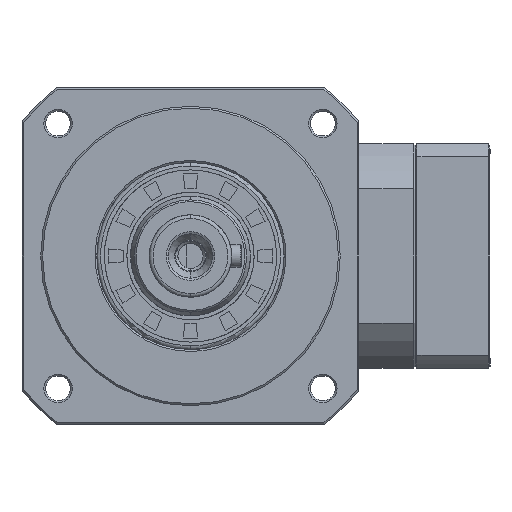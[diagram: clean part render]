
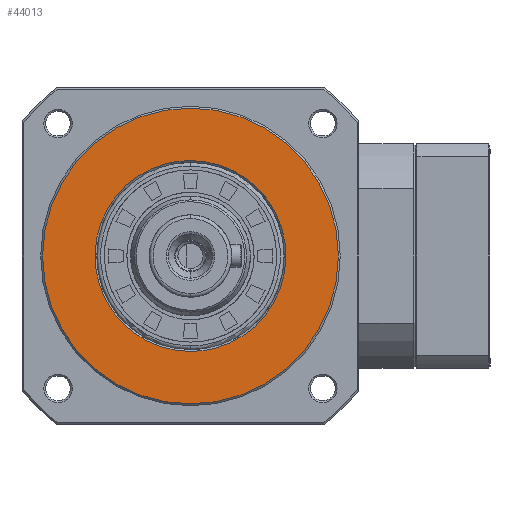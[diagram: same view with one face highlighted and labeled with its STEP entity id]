
A CAD part, left-side view. The second image highlights one B-rep face of the part: STEP entity #44013.
In plain terms, the highlighted planar face has unit normal (1, 0, 0).
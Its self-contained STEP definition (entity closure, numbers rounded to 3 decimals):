
#174 = CARTESIAN_POINT ( 'NONE',  ( 0., 19.211, 16.851 ) ) ;
#504 = EDGE_CURVE ( 'NONE', #51796, #31753, #93681, .T. ) ;
#636 = CARTESIAN_POINT ( 'NONE',  ( 0., 0., -25.5 ) ) ;
#842 = CARTESIAN_POINT ( 'NONE',  ( 0., 12.779, 22.13 ) ) ;
#995 = CARTESIAN_POINT ( 'NONE',  ( 0., -12.779, 22.13 ) ) ;
#1329 = CARTESIAN_POINT ( 'NONE',  ( 0., -8.216, 24.198 ) ) ;
#1643 = CARTESIAN_POINT ( 'NONE',  ( 0., -24.198, -8.216 ) ) ;
#5319 = AXIS2_PLACEMENT_3D ( 'NONE', #70549, #45057, #60482 ) ;
#6879 = VERTEX_POINT ( 'NONE', #85077 ) ;
#7488 = CIRCLE ( 'NONE', #83424, 39.5 ) ;
#8709 = CARTESIAN_POINT ( 'NONE',  ( 0., -25.336, -3.338 ) ) ;
#9374 = CARTESIAN_POINT ( 'NONE',  ( 0., -11.3, -22.92 ) ) ;
#11035 = CARTESIAN_POINT ( 'NONE',  ( 0., 11.3, -22.92 ) ) ;
#11257 = CARTESIAN_POINT ( 'NONE',  ( 0., 15.555, -20.275 ) ) ;
#12591 = CARTESIAN_POINT ( 'NONE',  ( 0., 19.211, -16.851 ) ) ;
#14256 = CARTESIAN_POINT ( 'NONE',  ( 0., 25.336, -3.338 ) ) ;
#15281 = CARTESIAN_POINT ( 'NONE',  ( 0., 22.92, 11.3 ) ) ;
#15751 = CARTESIAN_POINT ( 'NONE',  ( 0., -22.13, 12.779 ) ) ;
#16072 = CARTESIAN_POINT ( 'NONE',  ( 0., -15.555, -20.275 ) ) ;
#16221 = FACE_BOUND ( 'NONE', #90435, .T. ) ;
#16414 = CARTESIAN_POINT ( 'NONE',  ( 0., -20.275, 15.555 ) ) ;
#16427 = VERTEX_POINT ( 'NONE', #45108 ) ;
#16745 = CARTESIAN_POINT ( 'NONE',  ( 0., -6.612, 24.684 ) ) ;
#17066 = CARTESIAN_POINT ( 'NONE',  ( 0., -8.216, -24.198 ) ) ;
#19962 = CARTESIAN_POINT ( 'NONE',  ( 0., 16.851, -19.211 ) ) ;
#22203 = B_SPLINE_CURVE_WITH_KNOTS ( 'NONE', 3,
 ( #91198, #84207, #38827, #16745, #1329, #93482, #995, #32162, #47603, #70745, #16414, #15751, #69764, #24780, #84534, #31487, #46279, #70082, #8709, #77821, #1643, #62374, #55003, #55329, #85515, #62046, #16072, #23804, #9374, #17066, #39521, #63021, #77477, #636 ),
 .UNSPECIFIED., .F., .F.,
 ( 4, 2, 2, 2, 2, 2, 2, 2, 2, 2, 2, 2, 2, 2, 2, 2, 4 ),
 ( 0., 0.031, 0.063, 0.094, 0.125, 0.156, 0.188, 0.219, 0.25, 0.281, 0.313, 0.344, 0.375, 0.406, 0.438, 0.469, 0.5 ),
 .UNSPECIFIED. ) ;
#22255 = DIRECTION ( 'NONE',  ( 0., 0., -1. ) ) ;
#23804 = CARTESIAN_POINT ( 'NONE',  ( 0., -12.779, -22.13 ) ) ;
#24780 = CARTESIAN_POINT ( 'NONE',  ( 0., -24.198, 8.216 ) ) ;
#24845 = ORIENTED_EDGE ( 'NONE', *, *, #66648, .F. ) ;
#25483 = CARTESIAN_POINT ( 'NONE',  ( 0., 8.216, -24.198 ) ) ;
#31487 = CARTESIAN_POINT ( 'NONE',  ( 0., -25.336, 3.338 ) ) ;
#31753 = VERTEX_POINT ( 'NONE', #38759 ) ;
#32162 = CARTESIAN_POINT ( 'NONE',  ( 0., -15.555, 20.275 ) ) ;
#34088 = CARTESIAN_POINT ( 'NONE',  ( 0., 0., 0. ) ) ;
#38041 = CARTESIAN_POINT ( 'NONE',  ( 0., 25.5, 1.669 ) ) ;
#38362 = CARTESIAN_POINT ( 'NONE',  ( 0., 11.3, 22.92 ) ) ;
#38759 = CARTESIAN_POINT ( 'NONE',  ( 0., 0., 39.5 ) ) ;
#38827 = CARTESIAN_POINT ( 'NONE',  ( 0., -3.338, 25.336 ) ) ;
#39017 = CARTESIAN_POINT ( 'NONE',  ( 0., 24.198, 8.216 ) ) ;
#39521 = CARTESIAN_POINT ( 'NONE',  ( 0., -6.612, -24.684 ) ) ;
#40857 = CARTESIAN_POINT ( 'NONE',  ( 0., 12.779, -22.13 ) ) ;
#41531 = CARTESIAN_POINT ( 'NONE',  ( 0., 3.338, -25.336 ) ) ;
#41971 = CARTESIAN_POINT ( 'NONE',  ( 0., 22.13, -12.779 ) ) ;
#44013 = ADVANCED_FACE ( 'NONE', ( #16221, #95361 ), #55141, .T. ) ;
#45057 = DIRECTION ( 'NONE',  ( 1., 0., 0. ) ) ;
#45066 = CARTESIAN_POINT ( 'NONE',  ( 0., 0., 0. ) ) ;
#45108 = CARTESIAN_POINT ( 'NONE',  ( 0., 0., 25.5 ) ) ;
#46279 = CARTESIAN_POINT ( 'NONE',  ( 0., -25.5, 1.669 ) ) ;
#46471 = CARTESIAN_POINT ( 'NONE',  ( 0., 8.216, 24.198 ) ) ;
#46809 = CARTESIAN_POINT ( 'NONE',  ( 0., 22.13, 12.779 ) ) ;
#47603 = CARTESIAN_POINT ( 'NONE',  ( 0., -16.851, 19.211 ) ) ;
#51796 = VERTEX_POINT ( 'NONE', #90213 ) ;
#53515 = CARTESIAN_POINT ( 'NONE',  ( 0., 1.669, 25.5 ) ) ;
#55003 = CARTESIAN_POINT ( 'NONE',  ( 0., -22.13, -12.779 ) ) ;
#55141 = PLANE ( 'NONE',  #5319 ) ;
#55329 = CARTESIAN_POINT ( 'NONE',  ( 0., -20.275, -15.555 ) ) ;
#56085 = AXIS2_PLACEMENT_3D ( 'NONE', #45066, #68205, #22255 ) ;
#60482 = DIRECTION ( 'NONE',  ( 0., 0., -1. ) ) ;
#60716 = CARTESIAN_POINT ( 'NONE',  ( 0., 22.92, -11.3 ) ) ;
#61239 = CARTESIAN_POINT ( 'NONE',  ( 0., 24.684, 6.612 ) ) ;
#62046 = CARTESIAN_POINT ( 'NONE',  ( 0., -16.851, -19.211 ) ) ;
#62374 = CARTESIAN_POINT ( 'NONE',  ( 0., -22.92, -11.3 ) ) ;
#63021 = CARTESIAN_POINT ( 'NONE',  ( 0., -3.338, -25.336 ) ) ;
#65378 = CARTESIAN_POINT ( 'NONE',  ( 0., 24.198, -8.216 ) ) ;
#65667 = EDGE_CURVE ( 'NONE', #16427, #6879, #22203, .T. ) ;
#66509 = B_SPLINE_CURVE_WITH_KNOTS ( 'NONE', 3,
 ( #79835, #87486, #41531, #95133, #25483, #11035, #40857, #11257, #19962, #12591, #69212, #41971, #60716, #65378, #68322, #14256, #89029, #38041, #92346, #61239, #39017, #15281, #46809, #84387, #174, #92664, #84710, #842, #38362, #46471, #68945, #76021, #53515, #76985 ),
 .UNSPECIFIED., .F., .F.,
 ( 4, 2, 2, 2, 2, 2, 2, 2, 2, 2, 2, 2, 2, 2, 2, 2, 4 ),
 ( 0.5, 0.531, 0.563, 0.594, 0.625, 0.656, 0.688, 0.719, 0.75, 0.781, 0.813, 0.844, 0.875, 0.906, 0.938, 0.969, 1. ),
 .UNSPECIFIED. ) ;
#66648 = EDGE_CURVE ( 'NONE', #6879, #16427, #66509, .T. ) ;
#68205 = DIRECTION ( 'NONE',  ( 1., 0., 0. ) ) ;
#68322 = CARTESIAN_POINT ( 'NONE',  ( 0., 24.684, -6.612 ) ) ;
#68945 = CARTESIAN_POINT ( 'NONE',  ( 0., 6.612, 24.684 ) ) ;
#69212 = CARTESIAN_POINT ( 'NONE',  ( 0., 20.275, -15.555 ) ) ;
#69764 = CARTESIAN_POINT ( 'NONE',  ( 0., -22.92, 11.3 ) ) ;
#70082 = CARTESIAN_POINT ( 'NONE',  ( 0., -25.5, -1.669 ) ) ;
#70549 = CARTESIAN_POINT ( 'NONE',  ( 0., -39.974, 39.974 ) ) ;
#70745 = CARTESIAN_POINT ( 'NONE',  ( 0., -19.211, 16.851 ) ) ;
#72738 = EDGE_LOOP ( 'NONE', ( #80628, #92745 ) ) ;
#76021 = CARTESIAN_POINT ( 'NONE',  ( 0., 3.338, 25.336 ) ) ;
#76985 = CARTESIAN_POINT ( 'NONE',  ( 0., 0., 25.5 ) ) ;
#77477 = CARTESIAN_POINT ( 'NONE',  ( 0., -1.669, -25.5 ) ) ;
#77821 = CARTESIAN_POINT ( 'NONE',  ( 0., -24.684, -6.612 ) ) ;
#79835 = CARTESIAN_POINT ( 'NONE',  ( 0., 0., -25.5 ) ) ;
#80628 = ORIENTED_EDGE ( 'NONE', *, *, #504, .T. ) ;
#80763 = EDGE_CURVE ( 'NONE', #31753, #51796, #7488, .T. ) ;
#83424 = AXIS2_PLACEMENT_3D ( 'NONE', #34088, #87754, #95419 ) ;
#84207 = CARTESIAN_POINT ( 'NONE',  ( 0., -1.669, 25.5 ) ) ;
#84387 = CARTESIAN_POINT ( 'NONE',  ( 0., 20.275, 15.555 ) ) ;
#84534 = CARTESIAN_POINT ( 'NONE',  ( 0., -24.684, 6.612 ) ) ;
#84710 = CARTESIAN_POINT ( 'NONE',  ( 0., 15.555, 20.275 ) ) ;
#85077 = CARTESIAN_POINT ( 'NONE',  ( 0., 0., -25.5 ) ) ;
#85515 = CARTESIAN_POINT ( 'NONE',  ( 0., -19.211, -16.851 ) ) ;
#87486 = CARTESIAN_POINT ( 'NONE',  ( 0., 1.669, -25.5 ) ) ;
#87754 = DIRECTION ( 'NONE',  ( 1., 0., 0. ) ) ;
#89029 = CARTESIAN_POINT ( 'NONE',  ( 0., 25.5, -1.669 ) ) ;
#90213 = CARTESIAN_POINT ( 'NONE',  ( 0., 0., -39.5 ) ) ;
#90435 = EDGE_LOOP ( 'NONE', ( #97275, #24845 ) ) ;
#91198 = CARTESIAN_POINT ( 'NONE',  ( 0., 0., 25.5 ) ) ;
#92346 = CARTESIAN_POINT ( 'NONE',  ( 0., 25.336, 3.338 ) ) ;
#92664 = CARTESIAN_POINT ( 'NONE',  ( 0., 16.851, 19.211 ) ) ;
#92745 = ORIENTED_EDGE ( 'NONE', *, *, #80763, .T. ) ;
#93482 = CARTESIAN_POINT ( 'NONE',  ( 0., -11.3, 22.92 ) ) ;
#93681 = CIRCLE ( 'NONE', #56085, 39.5 ) ;
#95133 = CARTESIAN_POINT ( 'NONE',  ( 0., 6.612, -24.684 ) ) ;
#95361 = FACE_OUTER_BOUND ( 'NONE', #72738, .T. ) ;
#95419 = DIRECTION ( 'NONE',  ( 0., 0., -1. ) ) ;
#97275 = ORIENTED_EDGE ( 'NONE', *, *, #65667, .F. ) ;
